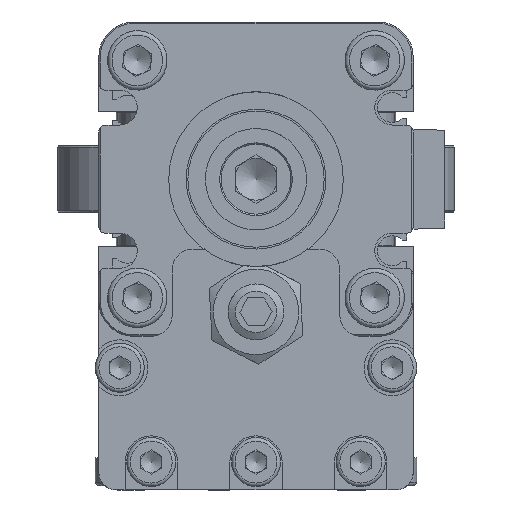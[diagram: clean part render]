
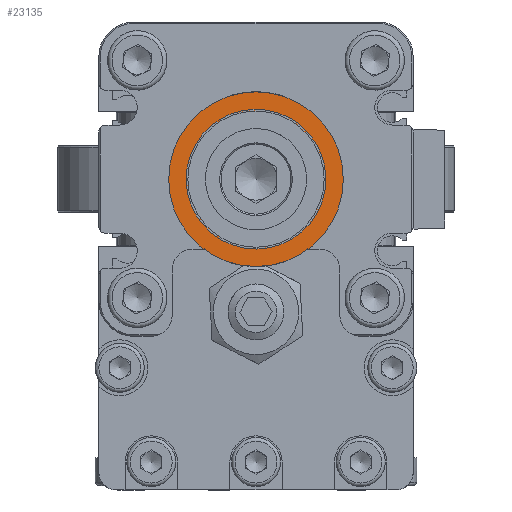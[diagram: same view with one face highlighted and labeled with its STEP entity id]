
A CAD part, front view. The second image highlights one B-rep face of the part: STEP entity #23135.
In plain terms, the highlighted planar face has unit normal (0, -1, 0).
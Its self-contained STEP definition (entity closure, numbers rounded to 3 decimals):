
#20480=FACE_BOUND('',#30609,.T.);
#20481=FACE_BOUND('',#30610,.T.);
#23135=ADVANCED_FACE('',(#20480,#20481),#25297,.T.);
#25297=PLANE('',#60359);
#30609=EDGE_LOOP('',(#48205));
#30610=EDGE_LOOP('',(#48206));
#48205=ORIENTED_EDGE('',*,*,#55904,.T.);
#48206=ORIENTED_EDGE('',*,*,#55908,.F.);
#50980=VERTEX_POINT('',#83932);
#50984=VERTEX_POINT('',#84055);
#55904=EDGE_CURVE('',#50980,#50980,#56797,.T.);
#55908=EDGE_CURVE('',#50984,#50984,#56799,.T.);
#56797=CIRCLE('',#60353,12.5);
#56799=CIRCLE('',#60356,9.75);
#60353=AXIS2_PLACEMENT_3D('',#83931,#71356,#71357);
#60356=AXIS2_PLACEMENT_3D('',#84054,#71362,#71363);
#60359=AXIS2_PLACEMENT_3D('',#84058,#71368,#71369);
#71356=DIRECTION('',(0.,-1.,0.));
#71357=DIRECTION('',(1.,0.,0.));
#71362=DIRECTION('',(0.,-1.,0.));
#71363=DIRECTION('',(1.,0.,0.));
#71368=DIRECTION('',(0.,-1.,0.));
#71369=DIRECTION('',(0.,0.,-1.));
#83931=CARTESIAN_POINT('',(-200.,-274.,-22.5));
#83932=CARTESIAN_POINT('',(-187.5,-274.,-22.5));
#84054=CARTESIAN_POINT('',(-200.,-274.,-22.5));
#84055=CARTESIAN_POINT('',(-190.25,-274.,-22.5));
#84058=CARTESIAN_POINT('',(-200.,-274.,-22.5));
